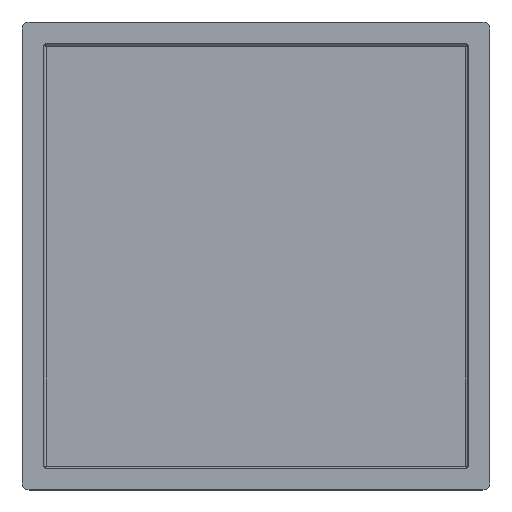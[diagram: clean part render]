
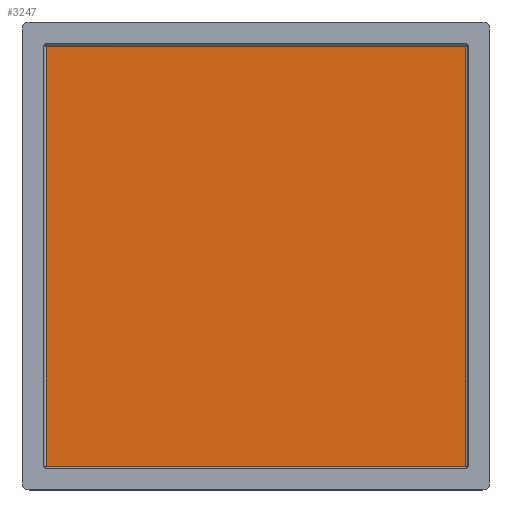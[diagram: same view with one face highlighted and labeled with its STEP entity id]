
A CAD part, top view. The second image highlights one B-rep face of the part: STEP entity #3247.
In plain terms, the highlighted planar face has unit normal (0, 0, 1).
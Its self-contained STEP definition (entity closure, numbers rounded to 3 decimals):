
#65 = CARTESIAN_POINT ( 'NONE',  ( -148., -148., 0. ) ) ;
#149 = ORIENTED_EDGE ( 'NONE', *, *, #2319, .F. ) ;
#169 = DIRECTION ( 'NONE',  ( 0., -1., 0. ) ) ;
#208 = DIRECTION ( 'NONE',  ( -1., 0., 0. ) ) ;
#293 = FACE_OUTER_BOUND ( 'NONE', #4576, .T. ) ;
#355 = DIRECTION ( 'NONE',  ( 0., 1., 0. ) ) ;
#456 = VERTEX_POINT ( 'NONE', #2944 ) ;
#534 = EDGE_CURVE ( 'NONE', #2694, #456, #2000, .T. ) ;
#881 = LINE ( 'NONE', #1886, #1727 ) ;
#926 = CARTESIAN_POINT ( 'NONE',  ( 148., -148., 0. ) ) ;
#1346 = CARTESIAN_POINT ( 'NONE',  ( 148.293, -148., 0. ) ) ;
#1687 = VERTEX_POINT ( 'NONE', #65 ) ;
#1709 = PLANE ( 'NONE',  #4477 ) ;
#1727 = VECTOR ( 'NONE', #169, 1000. ) ;
#1886 = CARTESIAN_POINT ( 'NONE',  ( 148., 148.293, 0. ) ) ;
#2000 = LINE ( 'NONE', #3488, #4523 ) ;
#2319 = EDGE_CURVE ( 'NONE', #456, #3590, #881, .T. ) ;
#2411 = VECTOR ( 'NONE', #355, 1000. ) ;
#2501 = CARTESIAN_POINT ( 'NONE',  ( -148., 148., 0. ) ) ;
#2694 = VERTEX_POINT ( 'NONE', #2501 ) ;
#2944 = CARTESIAN_POINT ( 'NONE',  ( 148., 148., 0. ) ) ;
#3033 = DIRECTION ( 'NONE',  ( 0., 0., 1. ) ) ;
#3126 = DIRECTION ( 'NONE',  ( 1., 0., 0. ) ) ;
#3134 = CARTESIAN_POINT ( 'NONE',  ( -148., -148.293, 0. ) ) ;
#3247 = ADVANCED_FACE ( 'NONE', ( #293 ), #1709, .T. ) ;
#3293 = LINE ( 'NONE', #3134, #2411 ) ;
#3389 = LINE ( 'NONE', #1346, #4569 ) ;
#3403 = CARTESIAN_POINT ( 'NONE',  ( 0., 0., 0. ) ) ;
#3488 = CARTESIAN_POINT ( 'NONE',  ( -148.293, 148., 0. ) ) ;
#3553 = ORIENTED_EDGE ( 'NONE', *, *, #534, .F. ) ;
#3590 = VERTEX_POINT ( 'NONE', #926 ) ;
#3606 = ORIENTED_EDGE ( 'NONE', *, *, #4511, .F. ) ;
#4336 = EDGE_CURVE ( 'NONE', #3590, #1687, #3389, .T. ) ;
#4371 = ORIENTED_EDGE ( 'NONE', *, *, #4336, .F. ) ;
#4477 = AXIS2_PLACEMENT_3D ( 'NONE', #3403, #3033, #3126 ) ;
#4482 = DIRECTION ( 'NONE',  ( 1., 0., 0. ) ) ;
#4511 = EDGE_CURVE ( 'NONE', #1687, #2694, #3293, .T. ) ;
#4523 = VECTOR ( 'NONE', #4482, 1000. ) ;
#4569 = VECTOR ( 'NONE', #208, 1000. ) ;
#4576 = EDGE_LOOP ( 'NONE', ( #149, #3553, #3606, #4371 ) ) ;
